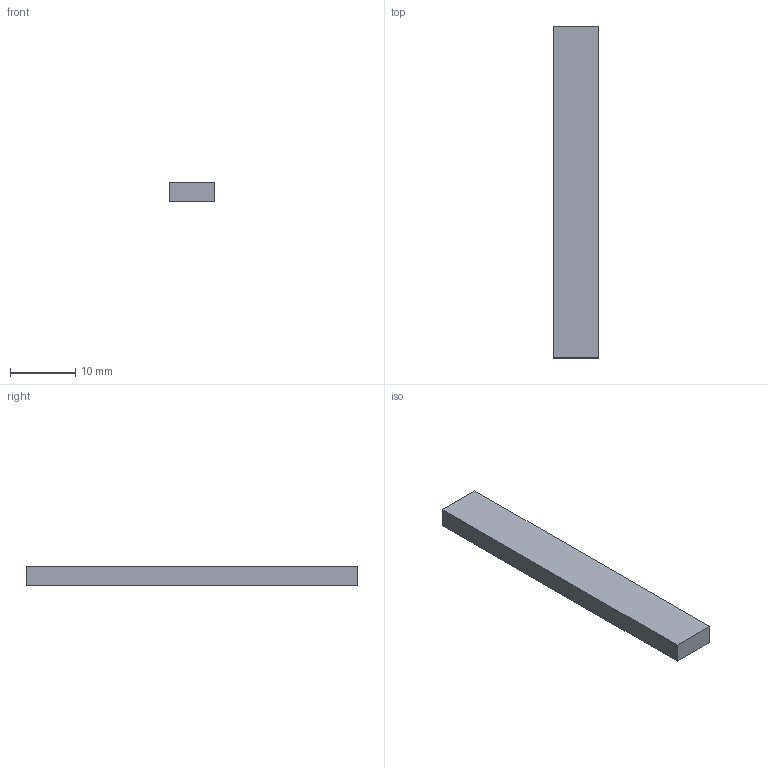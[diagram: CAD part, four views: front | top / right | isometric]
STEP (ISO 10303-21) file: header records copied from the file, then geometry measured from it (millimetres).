
FILE_DESCRIPTION(('Open CASCADE Model'),'2;1');
FILE_NAME('Open CASCADE Shape Model','2026-11-20T22:44:44',('Author'),( 'Open CASCADE'),'Open CASCADE STEP processor 7.8','Open CASCADE 7.8' ,'Unknown');
FILE_SCHEMA(('AUTOMOTIVE_DESIGN { 1 0 10303 214 1 1 1 1 }'));
Length unit declared in the file: millimetre
Products named in the file (1): Open CASCADE STEP translator 7.8 10
Bounding box: 7 x 50.7 x 3 mm (x, y, z)
Volume: 1064.7 mm3; surface area: 1056 mm2
Topology: 1 solids, 1 shells, 6 faces, 12 edges, 8 vertices
Faces by surface type: plane 6
Entity records: 322 total; most frequent: CARTESIAN_POINT 51, DIRECTION 50, LINE 36, VECTOR 36, ORIENTED_EDGE 24, PCURVE 24, DEFINITIONAL_REPRESENTATION 24, EDGE_CURVE 12
